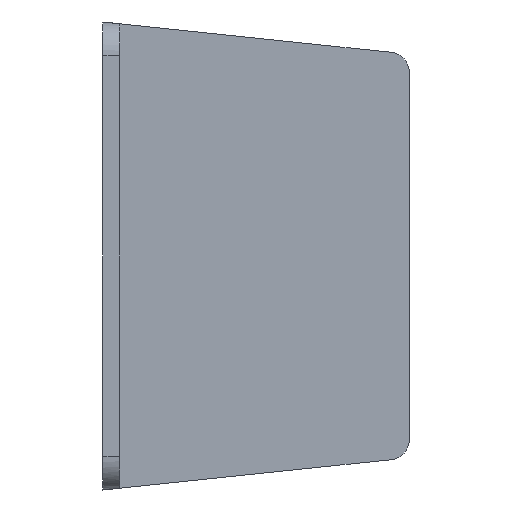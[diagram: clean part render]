
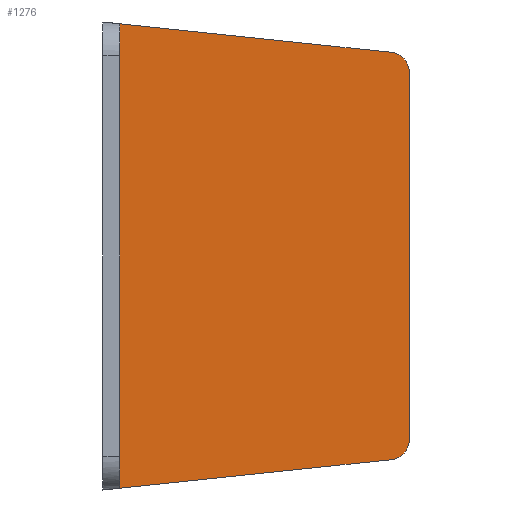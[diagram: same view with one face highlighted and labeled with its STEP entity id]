
A CAD part, left-side view. The second image highlights one B-rep face of the part: STEP entity #1276.
In plain terms, the highlighted planar face has unit normal (-1, 0, 0).
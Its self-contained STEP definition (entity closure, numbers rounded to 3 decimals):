
#22 = LINE ( 'NONE', #2046, #347 ) ;
#29 = DIRECTION ( 'NONE',  ( 0., 0., 1. ) ) ;
#55 = CIRCLE ( 'NONE', #87, 3. ) ;
#87 = AXIS2_PLACEMENT_3D ( 'NONE', #874, #1972, #1037 ) ;
#146 = LINE ( 'NONE', #1474, #1894 ) ;
#261 = ORIENTED_EDGE ( 'NONE', *, *, #1648, .T. ) ;
#341 = ORIENTED_EDGE ( 'NONE', *, *, #791, .T. ) ;
#347 = VECTOR ( 'NONE', #1428, 1000. ) ;
#348 = LINE ( 'NONE', #1287, #1177 ) ;
#360 = PLANE ( 'NONE',  #1103 ) ;
#404 = EDGE_CURVE ( 'NONE', #515, #969, #1291, .T. ) ;
#515 = VERTEX_POINT ( 'NONE', #585 ) ;
#562 = CARTESIAN_POINT ( 'NONE',  ( -56.75, -42.7, -34.5 ) ) ;
#569 = ORIENTED_EDGE ( 'NONE', *, *, #404, .F. ) ;
#575 = CARTESIAN_POINT ( 'NONE',  ( -56.75, -42.7, -27.048 ) ) ;
#585 = CARTESIAN_POINT ( 'NONE',  ( -56.75, 0., -34.237 ) ) ;
#618 = VERTEX_POINT ( 'NONE', #1113 ) ;
#667 = CARTESIAN_POINT ( 'NONE',  ( -56.75, -39.7, -27.048 ) ) ;
#679 = EDGE_CURVE ( 'NONE', #1309, #929, #1223, .T. ) ;
#723 = DIRECTION ( 'NONE',  ( 0., 0., 1. ) ) ;
#791 = EDGE_CURVE ( 'NONE', #1193, #618, #55, .T. ) ;
#839 = DIRECTION ( 'NONE',  ( 0., 0., 1. ) ) ;
#874 = CARTESIAN_POINT ( 'NONE',  ( -56.75, -39.7, 27.048 ) ) ;
#894 = AXIS2_PLACEMENT_3D ( 'NONE', #667, #1788, #839 ) ;
#929 = VERTEX_POINT ( 'NONE', #575 ) ;
#969 = VERTEX_POINT ( 'NONE', #1088 ) ;
#1037 = DIRECTION ( 'NONE',  ( 0., 0., 1. ) ) ;
#1088 = CARTESIAN_POINT ( 'NONE',  ( -56.75, 0., 34.237 ) ) ;
#1103 = AXIS2_PLACEMENT_3D ( 'NONE', #562, #1688, #723 ) ;
#1113 = CARTESIAN_POINT ( 'NONE',  ( -56.75, -40.014, 30.032 ) ) ;
#1156 = CARTESIAN_POINT ( 'NONE',  ( -56.75, -42.7, 27.048 ) ) ;
#1177 = VECTOR ( 'NONE', #1442, 1000. ) ;
#1193 = VERTEX_POINT ( 'NONE', #1156 ) ;
#1223 = CIRCLE ( 'NONE', #894, 3. ) ;
#1224 = CARTESIAN_POINT ( 'NONE',  ( -56.75, -40.014, -30.032 ) ) ;
#1274 = DIRECTION ( 'NONE',  ( 0., 0., 1. ) ) ;
#1276 = ADVANCED_FACE ( 'NONE', ( #1290 ), #360, .T. ) ;
#1287 = CARTESIAN_POINT ( 'NONE',  ( -56.75, -49.379, 29.047 ) ) ;
#1290 = FACE_OUTER_BOUND ( 'NONE', #1744, .T. ) ;
#1291 = LINE ( 'NONE', #1419, #1800 ) ;
#1309 = VERTEX_POINT ( 'NONE', #1224 ) ;
#1416 = ORIENTED_EDGE ( 'NONE', *, *, #1541, .F. ) ;
#1419 = CARTESIAN_POINT ( 'NONE',  ( -56.75, 0., -34.5 ) ) ;
#1428 = DIRECTION ( 'NONE',  ( 0., 0.995, -0.105 ) ) ;
#1438 = ORIENTED_EDGE ( 'NONE', *, *, #679, .T. ) ;
#1442 = DIRECTION ( 'NONE',  ( 0., -0.995, -0.105 ) ) ;
#1474 = CARTESIAN_POINT ( 'NONE',  ( -56.75, -42.7, -34.5 ) ) ;
#1541 = EDGE_CURVE ( 'NONE', #969, #618, #348, .T. ) ;
#1648 = EDGE_CURVE ( 'NONE', #929, #1193, #146, .T. ) ;
#1688 = DIRECTION ( 'NONE',  ( -1., 0., 0. ) ) ;
#1744 = EDGE_LOOP ( 'NONE', ( #1954, #1438, #261, #341, #1416, #569 ) ) ;
#1788 = DIRECTION ( 'NONE',  ( -1., 0., 0. ) ) ;
#1800 = VECTOR ( 'NONE', #1274, 1000. ) ;
#1894 = VECTOR ( 'NONE', #29, 1000. ) ;
#1954 = ORIENTED_EDGE ( 'NONE', *, *, #1988, .F. ) ;
#1972 = DIRECTION ( 'NONE',  ( -1., 0., 0. ) ) ;
#1988 = EDGE_CURVE ( 'NONE', #1309, #515, #22, .T. ) ;
#2046 = CARTESIAN_POINT ( 'NONE',  ( -56.75, -42.206, -29.801 ) ) ;
